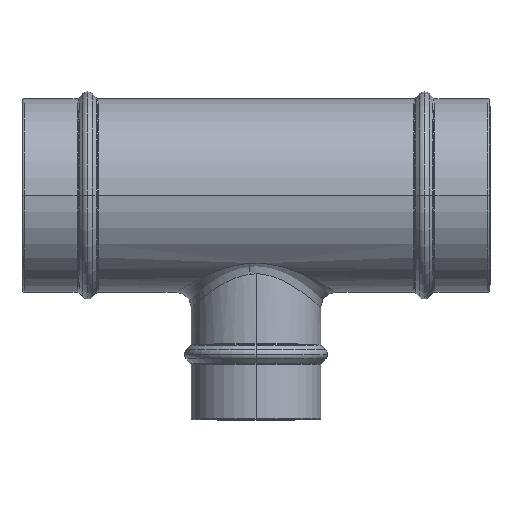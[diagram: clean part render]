
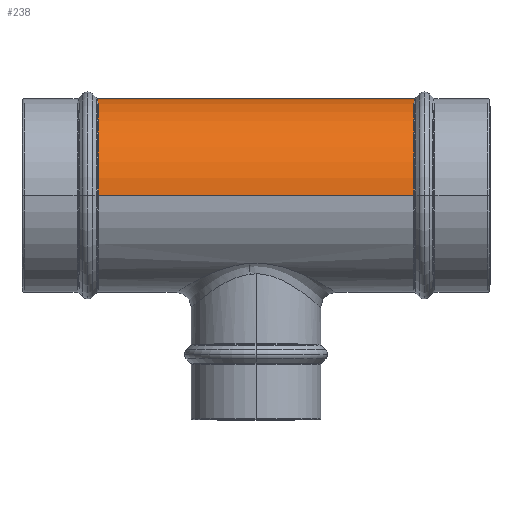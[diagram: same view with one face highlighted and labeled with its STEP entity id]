
A CAD part, top view. The second image highlights one B-rep face of the part: STEP entity #238.
In plain terms, the highlighted cylindrical face has radius 50.9 mm (diameter 101.8 mm), a partial arc.
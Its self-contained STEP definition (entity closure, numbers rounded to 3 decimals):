
#117=CYLINDRICAL_SURFACE('',#1407,50.9);
#238=ADVANCED_FACE('',(#341),#117,.T.);
#341=FACE_OUTER_BOUND('',#426,.T.);
#426=EDGE_LOOP('',(#835,#836,#837,#838));
#545=CIRCLE('',#1404,50.9);
#546=CIRCLE('',#1406,50.9);
#835=ORIENTED_EDGE('',*,*,#1077,.F.);
#836=ORIENTED_EDGE('',*,*,#1145,.F.);
#837=ORIENTED_EDGE('',*,*,#1076,.T.);
#838=ORIENTED_EDGE('',*,*,#1144,.F.);
#955=VERTEX_POINT('',#2088);
#956=VERTEX_POINT('',#2090);
#957=VERTEX_POINT('',#2094);
#958=VERTEX_POINT('',#2096);
#1076=EDGE_CURVE('',#955,#957,#1198,.T.);
#1077=EDGE_CURVE('',#956,#958,#1199,.T.);
#1144=EDGE_CURVE('',#958,#957,#545,.T.);
#1145=EDGE_CURVE('',#955,#956,#546,.T.);
#1198=LINE('',#2093,#1230);
#1199=LINE('',#2095,#1231);
#1230=VECTOR('',#1631,1.);
#1231=VECTOR('',#1632,1.);
#1404=AXIS2_PLACEMENT_3D('',#4913,#1799,#1800);
#1406=AXIS2_PLACEMENT_3D('',#4915,#1803,#1804);
#1407=AXIS2_PLACEMENT_3D('',#4916,#1805,#1806);
#1631=DIRECTION('',(1.,0.,0.));
#1632=DIRECTION('',(1.,0.,0.));
#1799=DIRECTION('',(1.,0.,0.));
#1800=DIRECTION('',(0.,0.,-1.));
#1803=DIRECTION('',(-1.,0.,0.));
#1804=DIRECTION('',(0.,0.,1.));
#1805=DIRECTION('',(1.,0.,0.));
#1806=DIRECTION('',(0.,0.,1.));
#2088=CARTESIAN_POINT('',(417.817,327.409,50.9));
#2090=CARTESIAN_POINT('',(417.817,327.409,-50.9));
#2093=CARTESIAN_POINT('',(417.817,327.409,50.9));
#2094=CARTESIAN_POINT('',(583.674,327.409,50.9));
#2095=CARTESIAN_POINT('',(417.817,327.409,-50.9));
#2096=CARTESIAN_POINT('',(583.674,327.409,-50.9));
#4913=CARTESIAN_POINT('',(583.674,327.409,0.));
#4915=CARTESIAN_POINT('',(417.817,327.409,0.));
#4916=CARTESIAN_POINT('',(323.513,327.409,0.));
